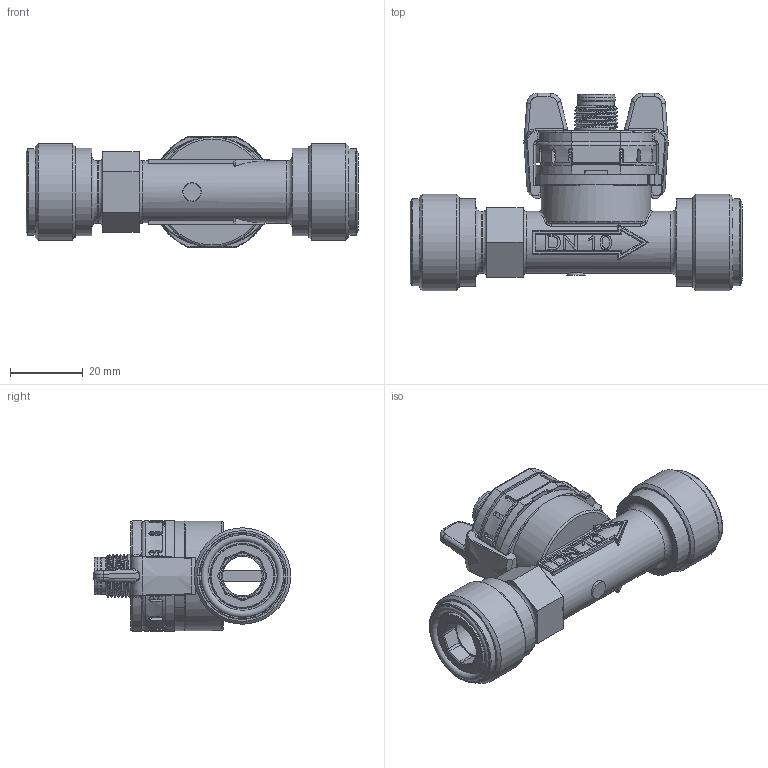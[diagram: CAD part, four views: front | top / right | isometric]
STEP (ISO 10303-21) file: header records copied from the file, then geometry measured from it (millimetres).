
FILE_DESCRIPTION(/* description */ (''),/* implementation_level */ '2;1');
FILE_NAME(/* name */ '2x0_x10x4xG.stp',/* time_stamp */ '2017-09-12T14:22:53+02:00',/* author */ (''),/* organization */ (''),/* preprocessor_version */ 'ST-DEVELOPER v16',/* originating_system */ 'SIEMENS PLM Software NX 11.0',/* authorisation */ '');
FILE_SCHEMA (('AUTOMOTIVE_DESIGN { 1 0 10303 214 3 1 1 1 }'));
Length unit declared in the file: millimetre
Products named in the file (1): z00207041C74624x
Bounding box: 90.98 x 54.07 x 30.2 mm (x, y, z)
Volume: 43746.8 mm3; surface area: 28703.6 mm2
Topology: 10 solids, 10 shells, 1102 faces, 2842 edges, 1781 vertices
Faces by surface type: plane 385, cylinder 300, extrusion 121, torus 105, cone 92, bspline 80, sphere 18, revolution 1
Full cylindrical faces by diameter (mm): 1 x3, 5 x1, 5.76 x3, 7.98 x4, 8.15 x2, 10 x1, 10.4 x1, 11 x1, 11.6 x1, 12.85 x2, 15.22 x1, 15.4 x1, 16.75 x2, 17 x2, 17.4 x2, 18.6 x2, 18.631 x2, 20.955 x2, 22.5 x2, 23.8 x2, 23.9 x2, 26.441 x2, 30 x1
Entity records: 45010 total; most frequent: CARTESIAN_POINT 15041, ORIENTED_EDGE 5306, DIRECTION 4939, EDGE_CURVE 2653, AXIS2_PLACEMENT_3D 1856, VERTEX_POINT 1737, EDGE_LOOP 1287, VECTOR 1226
